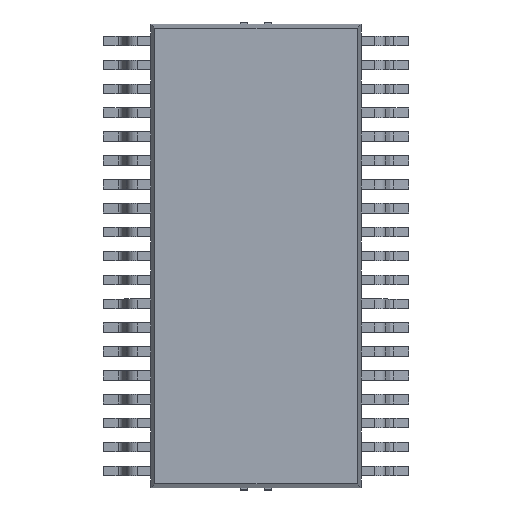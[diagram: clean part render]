
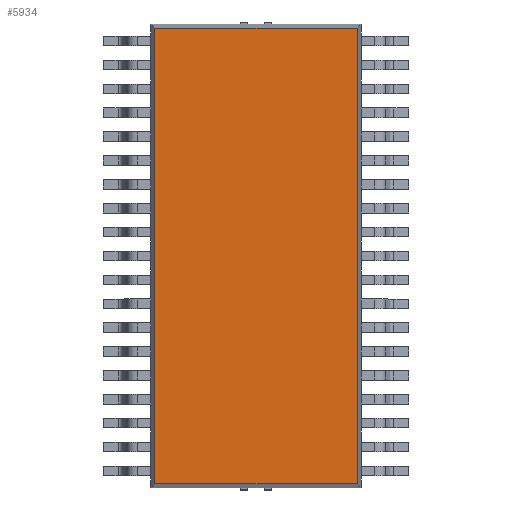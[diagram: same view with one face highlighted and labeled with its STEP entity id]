
A CAD part, top view. The second image highlights one B-rep face of the part: STEP entity #5934.
In plain terms, the highlighted planar face has unit normal (0, 0, 1).
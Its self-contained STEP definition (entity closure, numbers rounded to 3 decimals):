
#913 = ORIENTED_EDGE ( 'NONE', *, *, #14913, .T. ) ;
#2033 = LINE ( 'NONE', #13927, #6056 ) ;
#2933 = EDGE_CURVE ( 'NONE', #16232, #4048, #10411, .T. ) ;
#4017 = CARTESIAN_POINT ( 'NONE',  ( 7.693, 11.223, 10.682 ) ) ;
#4048 = VERTEX_POINT ( 'NONE', #16006 ) ;
#4268 = LINE ( 'NONE', #18524, #11172 ) ;
#4305 = EDGE_LOOP ( 'NONE', ( #913, #18016, #7295, #6285 ) ) ;
#4525 = VECTOR ( 'NONE', #17059, 1000. ) ;
#4722 = FACE_OUTER_BOUND ( 'NONE', #4305, .T. ) ;
#5788 = DIRECTION ( 'NONE',  ( 1., 0., 0. ) ) ;
#5934 = ADVANCED_FACE ( 'NONE', ( #4722 ), #18356, .T. ) ;
#6056 = VECTOR ( 'NONE', #18231, 1000. ) ;
#6285 = ORIENTED_EDGE ( 'NONE', *, *, #9470, .T. ) ;
#6649 = VECTOR ( 'NONE', #18428, 1000. ) ;
#6656 = CARTESIAN_POINT ( 'NONE',  ( 7.616, 11.223, 10.682 ) ) ;
#6977 = VERTEX_POINT ( 'NONE', #6656 ) ;
#7186 = CARTESIAN_POINT ( 'NONE',  ( 3.37, 11.3, 10.682 ) ) ;
#7295 = ORIENTED_EDGE ( 'NONE', *, *, #15500, .T. ) ;
#7551 = AXIS2_PLACEMENT_3D ( 'NONE', #9740, #14115, #9860 ) ;
#9060 = VERTEX_POINT ( 'NONE', #18251 ) ;
#9470 = EDGE_CURVE ( 'NONE', #9060, #6977, #2033, .T. ) ;
#9740 = CARTESIAN_POINT ( 'NONE',  ( 3.38, 2.031, 10.682 ) ) ;
#9860 = DIRECTION ( 'NONE',  ( 1., 0., 0. ) ) ;
#10411 = LINE ( 'NONE', #7186, #6649 ) ;
#11172 = VECTOR ( 'NONE', #5788, 1000. ) ;
#13828 = CARTESIAN_POINT ( 'NONE',  ( 3.37, 11.223, 10.682 ) ) ;
#13927 = CARTESIAN_POINT ( 'NONE',  ( 7.616, 1.6, 10.682 ) ) ;
#14111 = LINE ( 'NONE', #4017, #4525 ) ;
#14115 = DIRECTION ( 'NONE',  ( 0., 0., 1. ) ) ;
#14913 = EDGE_CURVE ( 'NONE', #6977, #16232, #14111, .T. ) ;
#15500 = EDGE_CURVE ( 'NONE', #4048, #9060, #4268, .T. ) ;
#16006 = CARTESIAN_POINT ( 'NONE',  ( 3.37, 1.677, 10.682 ) ) ;
#16232 = VERTEX_POINT ( 'NONE', #13828 ) ;
#17059 = DIRECTION ( 'NONE',  ( -1., 0., 0. ) ) ;
#18016 = ORIENTED_EDGE ( 'NONE', *, *, #2933, .T. ) ;
#18231 = DIRECTION ( 'NONE',  ( 0., 1., 0. ) ) ;
#18251 = CARTESIAN_POINT ( 'NONE',  ( 7.616, 1.677, 10.682 ) ) ;
#18356 = PLANE ( 'NONE',  #7551 ) ;
#18428 = DIRECTION ( 'NONE',  ( 0., -1., 0. ) ) ;
#18524 = CARTESIAN_POINT ( 'NONE',  ( 3.293, 1.677, 10.682 ) ) ;
